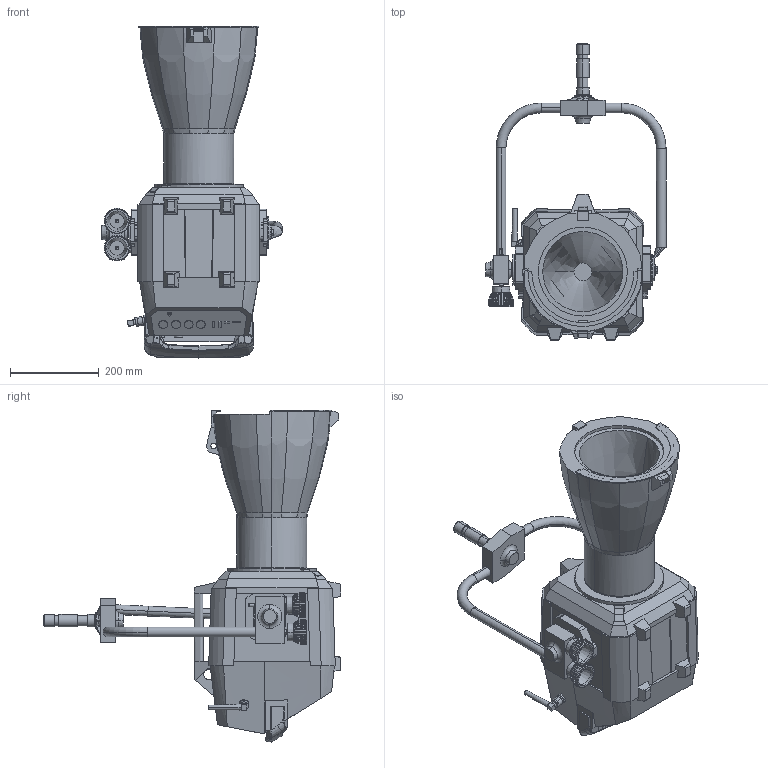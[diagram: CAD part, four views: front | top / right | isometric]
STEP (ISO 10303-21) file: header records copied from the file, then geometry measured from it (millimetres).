
FILE_DESCRIPTION (( 'STEP AP214' ), '1' );
FILE_NAME ('Orbiter OF15°.STEP', '2020-04-30T12:40:21', ( '' ), ( '' ), 'SwSTEP 2.0', 'SolidWorks 2018', '' );
FILE_SCHEMA (( 'AUTOMOTIVE_DESIGN' ));
Length unit declared in the file: millimetre
Products named in the file (7): Antenne_import_part; OF15_Part; Orbiter_import_part_sw; Aufhaengezapfen; Orbiter OF15ｰ; PO-Buegel; Control_Panel_import_part
Assembly tree (6 placements, depth 2):
  Orbiter OF15ｰ
    Control_Panel_import_part
    Antenne_import_part
    PO-Buegel
    Aufhaengezapfen
    Orbiter_import_part_sw
    OF15_Part
Bounding box: 405.2 x 669.95 x 746.7 mm (x, y, z)
Volume: 23019457 mm3; surface area: 1864501.3 mm2
Topology: 8 solids, 16 shells, 1718 faces, 4474 edges, 2864 vertices
Faces by surface type: plane 948, bspline 331, cylinder 302, cone 109, torus 26, sphere 2
Entity records: 81023 total; most frequent: CARTESIAN_POINT 22481, ORIENTED_EDGE 8936, DIRECTION 7038, EDGE_CURVE 4468, VERTEX_POINT 2862, VECTOR 2418, LINE 2418, AXIS2_PLACEMENT_3D 2310
